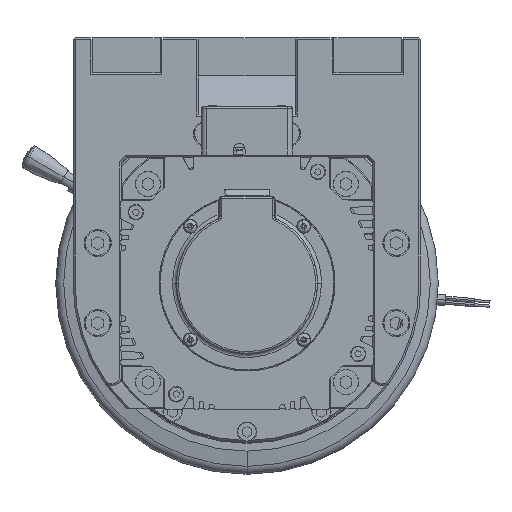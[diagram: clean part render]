
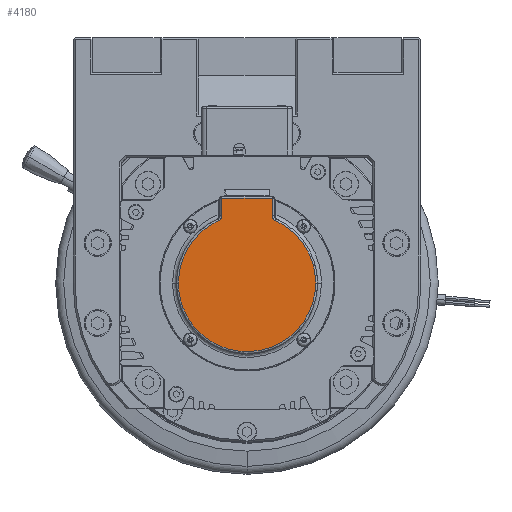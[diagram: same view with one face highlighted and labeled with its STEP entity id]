
A CAD part, left-side view. The second image highlights one B-rep face of the part: STEP entity #4180.
In plain terms, the highlighted planar face has unit normal (-1, 0, 0).
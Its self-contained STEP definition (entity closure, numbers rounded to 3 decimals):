
#2717 = LINE ( 'NONE', #15587, #2719 ) ;
#2719 = VECTOR ( 'NONE', #15589, 1000. ) ;
#2766 = LINE ( 'NONE', #15706, #2770 ) ;
#2770 = VECTOR ( 'NONE', #15712, 1000. ) ;
#4180 = ADVANCED_FACE ( 'NONE', ( #30866 ), #27538, .F. ) ;
#6606 = EDGE_CURVE ( 'NONE', #90007, #90014, #2717, .T. ) ;
#6686 = EDGE_CURVE ( 'NONE', #90010, #90003, #2766, .T. ) ;
#7016 = EDGE_CURVE ( 'NONE', #89859, #89863, #98066, .T. ) ;
#7168 = EDGE_CURVE ( 'NONE', #89863, #90007, #98472, .T. ) ;
#7406 = EDGE_CURVE ( 'NONE', #90003, #90008, #98366, .T. ) ;
#15587 = CARTESIAN_POINT ( 'NONE',  ( -220.232, -7.591, 52.353 ) ) ;
#15589 = DIRECTION ( 'NONE',  ( 0., 0., 1. ) ) ;
#15706 = CARTESIAN_POINT ( 'NONE',  ( -220.232, -33.591, 52.353 ) ) ;
#15712 = DIRECTION ( 'NONE',  ( 0., 0., -1. ) ) ;
#16282 = CARTESIAN_POINT ( 'NONE',  ( -220.232, 14.909, 21.66 ) ) ;
#16284 = CARTESIAN_POINT ( 'NONE',  ( -220.232, 7.176, 33.697 ) ) ;
#16291 = CARTESIAN_POINT ( 'NONE',  ( -220.232, 14.909, 7.353 ) ) ;
#16293 = CARTESIAN_POINT ( 'NONE',  ( -220.232, -5.837, 39.643 ) ) ;
#18126 = CARTESIAN_POINT ( 'NONE',  ( -220.232, -56.091, 7.353 ) ) ;
#18127 = CARTESIAN_POINT ( 'NONE',  ( -220.232, 14.909, 7.353 ) ) ;
#18129 = CARTESIAN_POINT ( 'NONE',  ( -220.232, -5.837, 39.643 ) ) ;
#18208 = CARTESIAN_POINT ( 'NONE',  ( -220.232, -33.591, 42.371 ) ) ;
#18211 = CARTESIAN_POINT ( 'NONE',  ( -220.232, -7.591, 42.371 ) ) ;
#18212 = CARTESIAN_POINT ( 'NONE',  ( -220.232, -35.344, 39.643 ) ) ;
#18213 = CARTESIAN_POINT ( 'NONE',  ( -220.232, -33.591, 51.353 ) ) ;
#18215 = CARTESIAN_POINT ( 'NONE',  ( -220.232, -7.591, 51.353 ) ) ;
#19092 = CARTESIAN_POINT ( 'NONE',  ( -220.232, -5.837, 39.643 ) ) ;
#19096 = CARTESIAN_POINT ( 'NONE',  ( -220.232, -6.937, 40.145 ) ) ;
#19107 = CARTESIAN_POINT ( 'NONE',  ( -220.232, -7.591, 41.162 ) ) ;
#19108 = CARTESIAN_POINT ( 'NONE',  ( -220.232, -7.591, 42.371 ) ) ;
#19727 = CARTESIAN_POINT ( 'NONE',  ( -220.232, -33.591, 41.162 ) ) ;
#19730 = CARTESIAN_POINT ( 'NONE',  ( -220.232, -34.244, 40.145 ) ) ;
#19737 = CARTESIAN_POINT ( 'NONE',  ( -220.232, -33.591, 42.371 ) ) ;
#19739 = CARTESIAN_POINT ( 'NONE',  ( -220.232, -35.344, 39.643 ) ) ;
#22646 = LINE ( 'NONE', #25744, #22661 ) ;
#22661 = VECTOR ( 'NONE', #25726, 1000. ) ;
#24088 = CARTESIAN_POINT ( 'NONE',  ( -220.232, -35.344, 39.643 ) ) ;
#24105 = CARTESIAN_POINT ( 'NONE',  ( -220.232, -48.357, 33.697 ) ) ;
#24120 = CARTESIAN_POINT ( 'NONE',  ( -220.232, -56.091, 21.66 ) ) ;
#24122 = CARTESIAN_POINT ( 'NONE',  ( -220.232, -56.091, 7.353 ) ) ;
#25307 = ORIENTED_EDGE ( 'NONE', *, *, #94372, .F. ) ;
#25400 = ORIENTED_EDGE ( 'NONE', *, *, #6686, .F. ) ;
#25726 = DIRECTION ( 'NONE',  ( 0., -1., 0. ) ) ;
#25744 = CARTESIAN_POINT ( 'NONE',  ( -220.232, -20.591, 51.353 ) ) ;
#26726 = CARTESIAN_POINT ( 'NONE',  ( -220.232, -56.091, -63.647 ) ) ;
#26735 = CARTESIAN_POINT ( 'NONE',  ( -220.232, -56.091, 7.353 ) ) ;
#26741 = CARTESIAN_POINT ( 'NONE',  ( -220.232, 14.909, -63.647 ) ) ;
#26742 = CARTESIAN_POINT ( 'NONE',  ( -220.232, 14.909, 7.353 ) ) ;
#27538 = PLANE ( 'NONE',  #65826 ) ;
#27564 = CARTESIAN_POINT ( 'NONE',  ( -220.232, -20.591, 52.353 ) ) ;
#27566 = DIRECTION ( 'NONE',  ( 1., 0., 0. ) ) ;
#27570 = DIRECTION ( 'NONE',  ( 0., 0., 1. ) ) ;
#29773 =( BOUNDED_CURVE ( )  B_SPLINE_CURVE ( 3, ( #26735, #26726, #26741, #26742 ),
 .UNSPECIFIED., .F., .F. ) 
 B_SPLINE_CURVE_WITH_KNOTS ( ( 4, 4 ),
 ( 0., 1. ),
 .UNSPECIFIED. ) 
 CURVE ( )  GEOMETRIC_REPRESENTATION_ITEM ( )  RATIONAL_B_SPLINE_CURVE ( ( 1., 0.333, 0.333, 1. ) ) 
 REPRESENTATION_ITEM ( '' )  );
#29843 =( BOUNDED_CURVE ( )  B_SPLINE_CURVE ( 3, ( #24088, #24105, #24120, #24122 ),
 .UNSPECIFIED., .F., .F. ) 
 B_SPLINE_CURVE_WITH_KNOTS ( ( 4, 4 ),
 ( 0., 1. ),
 .UNSPECIFIED. ) 
 CURVE ( )  GEOMETRIC_REPRESENTATION_ITEM ( )  RATIONAL_B_SPLINE_CURVE ( ( 1., 0.894, 0.894, 1. ) ) 
 REPRESENTATION_ITEM ( '' )  );
#30866 = FACE_OUTER_BOUND ( 'NONE', #33137, .T. ) ;
#33137 = EDGE_LOOP ( 'NONE', ( #91937, #25307, #46127, #25400, #46049, #46161, #92271, #46391 ) ) ;
#46049 = ORIENTED_EDGE ( 'NONE', *, *, #94415, .F. ) ;
#46127 = ORIENTED_EDGE ( 'NONE', *, *, #7406, .F. ) ;
#46161 = ORIENTED_EDGE ( 'NONE', *, *, #6606, .F. ) ;
#46391 = ORIENTED_EDGE ( 'NONE', *, *, #7016, .F. ) ;
#65826 = AXIS2_PLACEMENT_3D ( 'NONE', #27564, #27566, #27570 ) ;
#89857 = VERTEX_POINT ( 'NONE', #18126 ) ;
#89859 = VERTEX_POINT ( 'NONE', #18127 ) ;
#89863 = VERTEX_POINT ( 'NONE', #18129 ) ;
#90003 = VERTEX_POINT ( 'NONE', #18208 ) ;
#90007 = VERTEX_POINT ( 'NONE', #18211 ) ;
#90008 = VERTEX_POINT ( 'NONE', #18212 ) ;
#90010 = VERTEX_POINT ( 'NONE', #18213 ) ;
#90014 = VERTEX_POINT ( 'NONE', #18215 ) ;
#91937 = ORIENTED_EDGE ( 'NONE', *, *, #94502, .F. ) ;
#92271 = ORIENTED_EDGE ( 'NONE', *, *, #7168, .F. ) ;
#94372 = EDGE_CURVE ( 'NONE', #90008, #89857, #29843, .T. ) ;
#94415 = EDGE_CURVE ( 'NONE', #90014, #90010, #22646, .T. ) ;
#94502 = EDGE_CURVE ( 'NONE', #89857, #89859, #29773, .T. ) ;
#98066 =( BOUNDED_CURVE ( )  B_SPLINE_CURVE ( 3, ( #16291, #16282, #16284, #16293 ),
 .UNSPECIFIED., .F., .F. ) 
 B_SPLINE_CURVE_WITH_KNOTS ( ( 4, 4 ),
 ( 0., 1. ),
 .UNSPECIFIED. ) 
 CURVE ( )  GEOMETRIC_REPRESENTATION_ITEM ( )  RATIONAL_B_SPLINE_CURVE ( ( 1., 0.894, 0.894, 1. ) ) 
 REPRESENTATION_ITEM ( '' )  );
#98366 =( BOUNDED_CURVE ( )  B_SPLINE_CURVE ( 3, ( #19737, #19727, #19730, #19739 ),
 .UNSPECIFIED., .F., .F. ) 
 B_SPLINE_CURVE_WITH_KNOTS ( ( 4, 4 ),
 ( 0., 1. ),
 .UNSPECIFIED. ) 
 CURVE ( )  GEOMETRIC_REPRESENTATION_ITEM ( )  RATIONAL_B_SPLINE_CURVE ( ( 1., 0.894, 0.894, 1. ) ) 
 REPRESENTATION_ITEM ( '' )  );
#98472 =( BOUNDED_CURVE ( )  B_SPLINE_CURVE ( 3, ( #19092, #19096, #19107, #19108 ),
 .UNSPECIFIED., .F., .F. ) 
 B_SPLINE_CURVE_WITH_KNOTS ( ( 4, 4 ),
 ( 0., 1. ),
 .UNSPECIFIED. ) 
 CURVE ( )  GEOMETRIC_REPRESENTATION_ITEM ( )  RATIONAL_B_SPLINE_CURVE ( ( 1., 0.894, 0.894, 1. ) ) 
 REPRESENTATION_ITEM ( '' )  );
